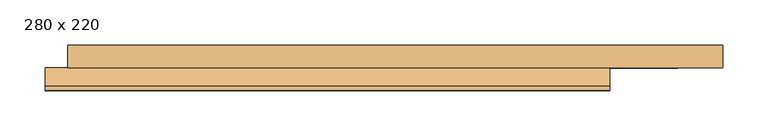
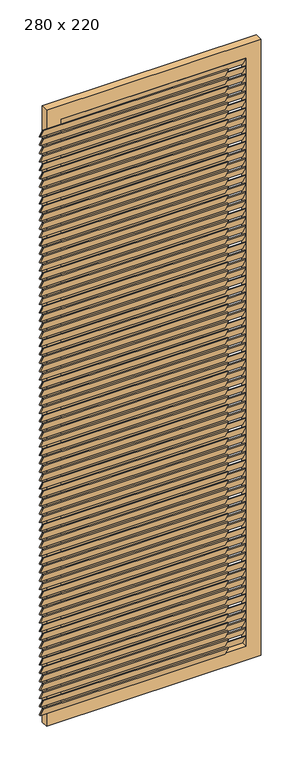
"""IFC4 building model written with IfcOpenShell, lengths in millimetres: door geometry, PORTA DE VIDRO COM ESQUADRIA DE CORRER - 4 FOLHAS + VENEZIANA DE CORRER - 4 FOLHAS : 280 x 220."""

from ifc_helpers import new_model, si_unit, frame, origin, place, context, project, spatial, polyline, outline, extrude, source, transform, mapped, element, save


def door_280_x_220_15cdb0a3(model_context):
    return source(origin(), model_context, "Body", "SweptSolid", [
        extrude(outline(polyline([(27.9682931, 2085.0724638), (7.9682931, 2120.0724638), (12.9682931, 2120.0724638), (32.9682931, 2085.0724638), (27.9682931, 2085.0724638)])), frame((983.9134884, 0.0, 0.0), z_axis=(1.0, 0.0, 0.0), x_axis=(0.0, 1.0, 0.0)), (0.0, 0.0, 1.0), 625.0),
        extrude(outline(polyline([(27.9682931, 2055.1449275), (7.9682931, 2090.1449275), (12.9682931, 2090.1449275), (32.9682931, 2055.1449275), (27.9682931, 2055.1449275)])), frame((983.9134884, 0.0, 0.0), z_axis=(1.0, 0.0, 0.0), x_axis=(0.0, 1.0, 0.0)), (0.0, 0.0, 1.0), 625.0),
        extrude(outline(polyline([(27.9682931, 2025.2173913), (7.9682931, 2060.2173913), (12.9682931, 2060.2173913), (32.9682931, 2025.2173913), (27.9682931, 2025.2173913)])), frame((983.9134884, 0.0, 0.0), z_axis=(1.0, 0.0, 0.0), x_axis=(0.0, 1.0, 0.0)), (0.0, 0.0, 1.0), 625.0),
        extrude(outline(polyline([(27.9682931, 1995.2898551), (7.9682931, 2030.2898551), (12.9682931, 2030.2898551), (32.9682931, 1995.2898551), (27.9682931, 1995.2898551)])), frame((983.9134884, 0.0, 0.0), z_axis=(1.0, 0.0, 0.0), x_axis=(0.0, 1.0, 0.0)), (0.0, 0.0, 1.0), 625.0),
        extrude(outline(polyline([(27.9682931, 1965.3623188), (7.9682931, 2000.3623188), (12.9682931, 2000.3623188), (32.9682931, 1965.3623188), (27.9682931, 1965.3623188)])), frame((983.9134884, 0.0, 0.0), z_axis=(1.0, 0.0, 0.0), x_axis=(0.0, 1.0, 0.0)), (0.0, 0.0, 1.0), 625.0),
        extrude(outline(polyline([(27.9682931, 1935.4347826), (7.9682931, 1970.4347826), (12.9682931, 1970.4347826), (32.9682931, 1935.4347826), (27.9682931, 1935.4347826)])), frame((983.9134884, 0.0, 0.0), z_axis=(1.0, 0.0, 0.0), x_axis=(0.0, 1.0, 0.0)), (0.0, 0.0, 1.0), 625.0),
        extrude(outline(polyline([(27.9682931, 1905.5072464), (7.9682931, 1940.5072464), (12.9682931, 1940.5072464), (32.9682931, 1905.5072464), (27.9682931, 1905.5072464)])), frame((983.9134884, 0.0, 0.0), z_axis=(1.0, 0.0, 0.0), x_axis=(0.0, 1.0, 0.0)), (0.0, 0.0, 1.0), 625.0),
        extrude(outline(polyline([(27.9682931, 1875.5797101), (7.9682931, 1910.5797101), (12.9682931, 1910.5797101), (32.9682931, 1875.5797101), (27.9682931, 1875.5797101)])), frame((983.9134884, 0.0, 0.0), z_axis=(1.0, 0.0, 0.0), x_axis=(0.0, 1.0, 0.0)), (0.0, 0.0, 1.0), 625.0),
        extrude(outline(polyline([(27.9682931, 1845.6521739), (7.9682931, 1880.6521739), (12.9682931, 1880.6521739), (32.9682931, 1845.6521739), (27.9682931, 1845.6521739)])), frame((983.9134884, 0.0, 0.0), z_axis=(1.0, 0.0, 0.0), x_axis=(0.0, 1.0, 0.0)), (0.0, 0.0, 1.0), 625.0),
        extrude(outline(polyline([(27.9682931, 1815.7246377), (7.9682931, 1850.7246377), (12.9682931, 1850.7246377), (32.9682931, 1815.7246377), (27.9682931, 1815.7246377)])), frame((983.9134884, 0.0, 0.0), z_axis=(1.0, 0.0, 0.0), x_axis=(0.0, 1.0, 0.0)), (0.0, 0.0, 1.0), 625.0),
        extrude(outline(polyline([(27.9682931, 1785.7971014), (7.9682931, 1820.7971014), (12.9682931, 1820.7971014), (32.9682931, 1785.7971014), (27.9682931, 1785.7971014)])), frame((983.9134884, 0.0, 0.0), z_axis=(1.0, 0.0, 0.0), x_axis=(0.0, 1.0, 0.0)), (0.0, 0.0, 1.0), 625.0),
        extrude(outline(polyline([(27.9682931, 1755.8695652), (7.9682931, 1790.8695652), (12.9682931, 1790.8695652), (32.9682931, 1755.8695652), (27.9682931, 1755.8695652)])), frame((983.9134884, 0.0, 0.0), z_axis=(1.0, 0.0, 0.0), x_axis=(0.0, 1.0, 0.0)), (0.0, 0.0, 1.0), 625.0),
        extrude(outline(polyline([(27.9682931, 1725.942029), (7.9682931, 1760.942029), (12.9682931, 1760.942029), (32.9682931, 1725.942029), (27.9682931, 1725.942029)])), frame((983.9134884, 0.0, 0.0), z_axis=(1.0, 0.0, 0.0), x_axis=(0.0, 1.0, 0.0)), (0.0, 0.0, 1.0), 625.0),
        extrude(outline(polyline([(27.9682931, 1696.0144928), (7.9682931, 1731.0144928), (12.9682931, 1731.0144928), (32.9682931, 1696.0144928), (27.9682931, 1696.0144928)])), frame((983.9134884, 0.0, 0.0), z_axis=(1.0, 0.0, 0.0), x_axis=(0.0, 1.0, 0.0)), (0.0, 0.0, 1.0), 625.0),
        extrude(outline(polyline([(27.9682931, 1666.0869565), (7.9682931, 1701.0869565), (12.9682931, 1701.0869565), (32.9682931, 1666.0869565), (27.9682931, 1666.0869565)])), frame((983.9134884, 0.0, 0.0), z_axis=(1.0, 0.0, 0.0), x_axis=(0.0, 1.0, 0.0)), (0.0, 0.0, 1.0), 625.0),
        extrude(outline(polyline([(27.9682931, 1636.1594203), (7.9682931, 1671.1594203), (12.9682931, 1671.1594203), (32.9682931, 1636.1594203), (27.9682931, 1636.1594203)])), frame((983.9134884, 0.0, 0.0), z_axis=(1.0, 0.0, 0.0), x_axis=(0.0, 1.0, 0.0)), (0.0, 0.0, 1.0), 625.0),
        extrude(outline(polyline([(27.9682931, 1606.2318841), (7.9682931, 1641.2318841), (12.9682931, 1641.2318841), (32.9682931, 1606.2318841), (27.9682931, 1606.2318841)])), frame((983.9134884, 0.0, 0.0), z_axis=(1.0, 0.0, 0.0), x_axis=(0.0, 1.0, 0.0)), (0.0, 0.0, 1.0), 625.0),
        extrude(outline(polyline([(27.9682931, 1576.3043478), (7.9682931, 1611.3043478), (12.9682931, 1611.3043478), (32.9682931, 1576.3043478), (27.9682931, 1576.3043478)])), frame((983.9134884, 0.0, 0.0), z_axis=(1.0, 0.0, 0.0), x_axis=(0.0, 1.0, 0.0)), (0.0, 0.0, 1.0), 625.0),
        extrude(outline(polyline([(27.9682931, 1546.3768116), (7.9682931, 1581.3768116), (12.9682931, 1581.3768116), (32.9682931, 1546.3768116), (27.9682931, 1546.3768116)])), frame((983.9134884, 0.0, 0.0), z_axis=(1.0, 0.0, 0.0), x_axis=(0.0, 1.0, 0.0)), (0.0, 0.0, 1.0), 625.0),
        extrude(outline(polyline([(27.9682931, 1516.4492754), (7.9682931, 1551.4492754), (12.9682931, 1551.4492754), (32.9682931, 1516.4492754), (27.9682931, 1516.4492754)])), frame((983.9134884, 0.0, 0.0), z_axis=(1.0, 0.0, 0.0), x_axis=(0.0, 1.0, 0.0)), (0.0, 0.0, 1.0), 625.0),
        extrude(outline(polyline([(27.9682931, 1486.5217391), (7.9682931, 1521.5217391), (12.9682931, 1521.5217391), (32.9682931, 1486.5217391), (27.9682931, 1486.5217391)])), frame((983.9134884, 0.0, 0.0), z_axis=(1.0, 0.0, 0.0), x_axis=(0.0, 1.0, 0.0)), (0.0, 0.0, 1.0), 625.0),
        extrude(outline(polyline([(27.9682931, 1456.5942029), (7.9682931, 1491.5942029), (12.9682931, 1491.5942029), (32.9682931, 1456.5942029), (27.9682931, 1456.5942029)])), frame((983.9134884, 0.0, 0.0), z_axis=(1.0, 0.0, 0.0), x_axis=(0.0, 1.0, 0.0)), (0.0, 0.0, 1.0), 625.0),
        extrude(outline(polyline([(27.9682931, 1426.6666667), (7.9682931, 1461.6666667), (12.9682931, 1461.6666667), (32.9682931, 1426.6666667), (27.9682931, 1426.6666667)])), frame((983.9134884, 0.0, 0.0), z_axis=(1.0, 0.0, 0.0), x_axis=(0.0, 1.0, 0.0)), (0.0, 0.0, 1.0), 625.0),
        extrude(outline(polyline([(27.9682931, 1396.7391304), (7.9682931, 1431.7391304), (12.9682931, 1431.7391304), (32.9682931, 1396.7391304), (27.9682931, 1396.7391304)])), frame((983.9134884, 0.0, 0.0), z_axis=(1.0, 0.0, 0.0), x_axis=(0.0, 1.0, 0.0)), (0.0, 0.0, 1.0), 625.0),
        extrude(outline(polyline([(27.9682931, 1366.8115942), (7.9682931, 1401.8115942), (12.9682931, 1401.8115942), (32.9682931, 1366.8115942), (27.9682931, 1366.8115942)])), frame((983.9134884, 0.0, 0.0), z_axis=(1.0, 0.0, 0.0), x_axis=(0.0, 1.0, 0.0)), (0.0, 0.0, 1.0), 625.0),
        extrude(outline(polyline([(27.9682931, 1336.884058), (7.9682931, 1371.884058), (12.9682931, 1371.884058), (32.9682931, 1336.884058), (27.9682931, 1336.884058)])), frame((983.9134884, 0.0, 0.0), z_axis=(1.0, 0.0, 0.0), x_axis=(0.0, 1.0, 0.0)), (0.0, 0.0, 1.0), 625.0),
        extrude(outline(polyline([(27.9682931, 1306.9565217), (7.9682931, 1341.9565217), (12.9682931, 1341.9565217), (32.9682931, 1306.9565217), (27.9682931, 1306.9565217)])), frame((983.9134884, 0.0, 0.0), z_axis=(1.0, 0.0, 0.0), x_axis=(0.0, 1.0, 0.0)), (0.0, 0.0, 1.0), 625.0),
        extrude(outline(polyline([(27.9682931, 1277.0289855), (7.9682931, 1312.0289855), (12.9682931, 1312.0289855), (32.9682931, 1277.0289855), (27.9682931, 1277.0289855)])), frame((983.9134884, 0.0, 0.0), z_axis=(1.0, 0.0, 0.0), x_axis=(0.0, 1.0, 0.0)), (0.0, 0.0, 1.0), 625.0),
        extrude(outline(polyline([(27.9682931, 1247.1014493), (7.9682931, 1282.1014493), (12.9682931, 1282.1014493), (32.9682931, 1247.1014493), (27.9682931, 1247.1014493)])), frame((983.9134884, 0.0, 0.0), z_axis=(1.0, 0.0, 0.0), x_axis=(0.0, 1.0, 0.0)), (0.0, 0.0, 1.0), 625.0),
        extrude(outline(polyline([(27.9682931, 1217.173913), (7.9682931, 1252.173913), (12.9682931, 1252.173913), (32.9682931, 1217.173913), (27.9682931, 1217.173913)])), frame((983.9134884, 0.0, 0.0), z_axis=(1.0, 0.0, 0.0), x_axis=(0.0, 1.0, 0.0)), (0.0, 0.0, 1.0), 625.0),
        extrude(outline(polyline([(27.9682931, 1187.2463768), (7.9682931, 1222.2463768), (12.9682931, 1222.2463768), (32.9682931, 1187.2463768), (27.9682931, 1187.2463768)])), frame((983.9134884, 0.0, 0.0), z_axis=(1.0, 0.0, 0.0), x_axis=(0.0, 1.0, 0.0)), (0.0, 0.0, 1.0), 625.0),
        extrude(outline(polyline([(27.9682931, 1157.3188406), (7.9682931, 1192.3188406), (12.9682931, 1192.3188406), (32.9682931, 1157.3188406), (27.9682931, 1157.3188406)])), frame((983.9134884, 0.0, 0.0), z_axis=(1.0, 0.0, 0.0), x_axis=(0.0, 1.0, 0.0)), (0.0, 0.0, 1.0), 625.0),
        extrude(outline(polyline([(27.9682931, 1127.3913043), (7.9682931, 1162.3913043), (12.9682931, 1162.3913043), (32.9682931, 1127.3913043), (27.9682931, 1127.3913043)])), frame((983.9134884, 0.0, 0.0), z_axis=(1.0, 0.0, 0.0), x_axis=(0.0, 1.0, 0.0)), (0.0, 0.0, 1.0), 625.0),
        extrude(outline(polyline([(27.9682931, 1097.4637681), (7.9682931, 1132.4637681), (12.9682931, 1132.4637681), (32.9682931, 1097.4637681), (27.9682931, 1097.4637681)])), frame((983.9134884, 0.0, 0.0), z_axis=(1.0, 0.0, 0.0), x_axis=(0.0, 1.0, 0.0)), (0.0, 0.0, 1.0), 625.0),
        extrude(outline(polyline([(27.9682931, 1067.5362319), (7.9682931, 1102.5362319), (12.9682931, 1102.5362319), (32.9682931, 1067.5362319), (27.9682931, 1067.5362319)])), frame((983.9134884, 0.0, 0.0), z_axis=(1.0, 0.0, 0.0), x_axis=(0.0, 1.0, 0.0)), (0.0, 0.0, 1.0), 625.0),
        extrude(outline(polyline([(27.9682931, 1037.6086957), (7.9682931, 1072.6086957), (12.9682931, 1072.6086957), (32.9682931, 1037.6086957), (27.9682931, 1037.6086957)])), frame((983.9134884, 0.0, 0.0), z_axis=(1.0, 0.0, 0.0), x_axis=(0.0, 1.0, 0.0)), (0.0, 0.0, 1.0), 625.0),
        extrude(outline(polyline([(27.9682931, 1007.6811594), (7.9682931, 1042.6811594), (12.9682931, 1042.6811594), (32.9682931, 1007.6811594), (27.9682931, 1007.6811594)])), frame((983.9134884, 0.0, 0.0), z_axis=(1.0, 0.0, 0.0), x_axis=(0.0, 1.0, 0.0)), (0.0, 0.0, 1.0), 625.0),
        extrude(outline(polyline([(27.9682931, 977.7536232), (7.9682931, 1012.7536232), (12.9682931, 1012.7536232), (32.9682931, 977.7536232), (27.9682931, 977.7536232)])), frame((983.9134884, 0.0, 0.0), z_axis=(1.0, 0.0, 0.0), x_axis=(0.0, 1.0, 0.0)), (0.0, 0.0, 1.0), 625.0),
        extrude(outline(polyline([(27.9682931, 947.826087), (7.9682931, 982.826087), (12.9682931, 982.826087), (32.9682931, 947.826087), (27.9682931, 947.826087)])), frame((983.9134884, 0.0, 0.0), z_axis=(1.0, 0.0, 0.0), x_axis=(0.0, 1.0, 0.0)), (0.0, 0.0, 1.0), 625.0),
        extrude(outline(polyline([(27.9682931, 917.8985507), (7.9682931, 952.8985507), (12.9682931, 952.8985507), (32.9682931, 917.8985507), (27.9682931, 917.8985507)])), frame((983.9134884, 0.0, 0.0), z_axis=(1.0, 0.0, 0.0), x_axis=(0.0, 1.0, 0.0)), (0.0, 0.0, 1.0), 625.0),
        extrude(outline(polyline([(27.9682931, 887.9710145), (7.9682931, 922.9710145), (12.9682931, 922.9710145), (32.9682931, 887.9710145), (27.9682931, 887.9710145)])), frame((983.9134884, 0.0, 0.0), z_axis=(1.0, 0.0, 0.0), x_axis=(0.0, 1.0, 0.0)), (0.0, 0.0, 1.0), 625.0),
        extrude(outline(polyline([(27.9682931, 858.0434783), (7.9682931, 893.0434783), (12.9682931, 893.0434783), (32.9682931, 858.0434783), (27.9682931, 858.0434783)])), frame((983.9134884, 0.0, 0.0), z_axis=(1.0, 0.0, 0.0), x_axis=(0.0, 1.0, 0.0)), (0.0, 0.0, 1.0), 625.0),
        extrude(outline(polyline([(27.9682931, 828.115942), (7.9682931, 863.115942), (12.9682931, 863.115942), (32.9682931, 828.115942), (27.9682931, 828.115942)])), frame((983.9134884, 0.0, 0.0), z_axis=(1.0, 0.0, 0.0), x_axis=(0.0, 1.0, 0.0)), (0.0, 0.0, 1.0), 625.0),
        extrude(outline(polyline([(27.9682931, 798.1884058), (7.9682931, 833.1884058), (12.9682931, 833.1884058), (32.9682931, 798.1884058), (27.9682931, 798.1884058)])), frame((983.9134884, 0.0, 0.0), z_axis=(1.0, 0.0, 0.0), x_axis=(0.0, 1.0, 0.0)), (0.0, 0.0, 1.0), 625.0),
        extrude(outline(polyline([(27.9682931, 768.2608696), (7.9682931, 803.2608696), (12.9682931, 803.2608696), (32.9682931, 768.2608696), (27.9682931, 768.2608696)])), frame((983.9134884, 0.0, 0.0), z_axis=(1.0, 0.0, 0.0), x_axis=(0.0, 1.0, 0.0)), (0.0, 0.0, 1.0), 625.0),
        extrude(outline(polyline([(27.9682931, 738.3333333), (7.9682931, 773.3333333), (12.9682931, 773.3333333), (32.9682931, 738.3333333), (27.9682931, 738.3333333)])), frame((983.9134884, 0.0, 0.0), z_axis=(1.0, 0.0, 0.0), x_axis=(0.0, 1.0, 0.0)), (0.0, 0.0, 1.0), 625.0),
        extrude(outline(polyline([(27.9682931, 708.4057971), (7.9682931, 743.4057971), (12.9682931, 743.4057971), (32.9682931, 708.4057971), (27.9682931, 708.4057971)])), frame((983.9134884, 0.0, 0.0), z_axis=(1.0, 0.0, 0.0), x_axis=(0.0, 1.0, 0.0)), (0.0, 0.0, 1.0), 625.0),
        extrude(outline(polyline([(27.9682931, 678.4782609), (7.9682931, 713.4782609), (12.9682931, 713.4782609), (32.9682931, 678.4782609), (27.9682931, 678.4782609)])), frame((983.9134884, 0.0, 0.0), z_axis=(1.0, 0.0, 0.0), x_axis=(0.0, 1.0, 0.0)), (0.0, 0.0, 1.0), 625.0),
        extrude(outline(polyline([(27.9682931, 648.5507246), (7.9682931, 683.5507246), (12.9682931, 683.5507246), (32.9682931, 648.5507246), (27.9682931, 648.5507246)])), frame((983.9134884, 0.0, 0.0), z_axis=(1.0, 0.0, 0.0), x_axis=(0.0, 1.0, 0.0)), (0.0, 0.0, 1.0), 625.0),
        extrude(outline(polyline([(27.9682931, 618.6231884), (7.9682931, 653.6231884), (12.9682931, 653.6231884), (32.9682931, 618.6231884), (27.9682931, 618.6231884)])), frame((983.9134884, 0.0, 0.0), z_axis=(1.0, 0.0, 0.0), x_axis=(0.0, 1.0, 0.0)), (0.0, 0.0, 1.0), 625.0),
        extrude(outline(polyline([(27.9682931, 588.6956522), (7.9682931, 623.6956522), (12.9682931, 623.6956522), (32.9682931, 588.6956522), (27.9682931, 588.6956522)])), frame((983.9134884, 0.0, 0.0), z_axis=(1.0, 0.0, 0.0), x_axis=(0.0, 1.0, 0.0)), (0.0, 0.0, 1.0), 625.0),
        extrude(outline(polyline([(27.9682931, 558.7681159), (7.9682931, 593.7681159), (12.9682931, 593.7681159), (32.9682931, 558.7681159), (27.9682931, 558.7681159)])), frame((983.9134884, 0.0, 0.0), z_axis=(1.0, 0.0, 0.0), x_axis=(0.0, 1.0, 0.0)), (0.0, 0.0, 1.0), 625.0),
        extrude(outline(polyline([(27.9682931, 528.8405797), (7.9682931, 563.8405797), (12.9682931, 563.8405797), (32.9682931, 528.8405797), (27.9682931, 528.8405797)])), frame((983.9134884, 0.0, 0.0), z_axis=(1.0, 0.0, 0.0), x_axis=(0.0, 1.0, 0.0)), (0.0, 0.0, 1.0), 625.0),
        extrude(outline(polyline([(27.9682931, 498.9130435), (7.9682931, 533.9130435), (12.9682931, 533.9130435), (32.9682931, 498.9130435), (27.9682931, 498.9130435)])), frame((983.9134884, 0.0, 0.0), z_axis=(1.0, 0.0, 0.0), x_axis=(0.0, 1.0, 0.0)), (0.0, 0.0, 1.0), 625.0),
        extrude(outline(polyline([(27.9682931, 468.9855072), (7.9682931, 503.9855072), (12.9682931, 503.9855072), (32.9682931, 468.9855072), (27.9682931, 468.9855072)])), frame((983.9134884, 0.0, 0.0), z_axis=(1.0, 0.0, 0.0), x_axis=(0.0, 1.0, 0.0)), (0.0, 0.0, 1.0), 625.0),
        extrude(outline(polyline([(27.9682931, 439.057971), (7.9682931, 474.057971), (12.9682931, 474.057971), (32.9682931, 439.057971), (27.9682931, 439.057971)])), frame((983.9134884, 0.0, 0.0), z_axis=(1.0, 0.0, 0.0), x_axis=(0.0, 1.0, 0.0)), (0.0, 0.0, 1.0), 625.0),
        extrude(outline(polyline([(27.9682931, 409.1304348), (7.9682931, 444.1304348), (12.9682931, 444.1304348), (32.9682931, 409.1304348), (27.9682931, 409.1304348)])), frame((983.9134884, 0.0, 0.0), z_axis=(1.0, 0.0, 0.0), x_axis=(0.0, 1.0, 0.0)), (0.0, 0.0, 1.0), 625.0),
        extrude(outline(polyline([(27.9682931, 379.2028986), (7.9682931, 414.2028986), (12.9682931, 414.2028986), (32.9682931, 379.2028986), (27.9682931, 379.2028986)])), frame((983.9134884, 0.0, 0.0), z_axis=(1.0, 0.0, 0.0), x_axis=(0.0, 1.0, 0.0)), (0.0, 0.0, 1.0), 625.0),
        extrude(outline(polyline([(27.9682931, 349.2753623), (7.9682931, 384.2753623), (12.9682931, 384.2753623), (32.9682931, 349.2753623), (27.9682931, 349.2753623)])), frame((983.9134884, 0.0, 0.0), z_axis=(1.0, 0.0, 0.0), x_axis=(0.0, 1.0, 0.0)), (0.0, 0.0, 1.0), 625.0),
        extrude(outline(polyline([(27.9682931, 319.3478261), (7.9682931, 354.3478261), (12.9682931, 354.3478261), (32.9682931, 319.3478261), (27.9682931, 319.3478261)])), frame((983.9134884, 0.0, 0.0), z_axis=(1.0, 0.0, 0.0), x_axis=(0.0, 1.0, 0.0)), (0.0, 0.0, 1.0), 625.0),
        extrude(outline(polyline([(27.9682931, 289.4202899), (7.9682931, 324.4202899), (12.9682931, 324.4202899), (32.9682931, 289.4202899), (27.9682931, 289.4202899)])), frame((983.9134884, 0.0, 0.0), z_axis=(1.0, 0.0, 0.0), x_axis=(0.0, 1.0, 0.0)), (0.0, 0.0, 1.0), 625.0),
        extrude(outline(polyline([(27.9682931, 259.4927536), (7.9682931, 294.4927536), (12.9682931, 294.4927536), (32.9682931, 259.4927536), (27.9682931, 259.4927536)])), frame((983.9134884, 0.0, 0.0), z_axis=(1.0, 0.0, 0.0), x_axis=(0.0, 1.0, 0.0)), (0.0, 0.0, 1.0), 625.0),
        extrude(outline(polyline([(27.9682931, 229.5652174), (7.9682931, 264.5652174), (12.9682931, 264.5652174), (32.9682931, 229.5652174), (27.9682931, 229.5652174)])), frame((983.9134884, 0.0, 0.0), z_axis=(1.0, 0.0, 0.0), x_axis=(0.0, 1.0, 0.0)), (0.0, 0.0, 1.0), 625.0),
        extrude(outline(polyline([(27.9682931, 199.6376812), (7.9682931, 234.6376812), (12.9682931, 234.6376812), (32.9682931, 199.6376812), (27.9682931, 199.6376812)])), frame((983.9134884, 0.0, 0.0), z_axis=(1.0, 0.0, 0.0), x_axis=(0.0, 1.0, 0.0)), (0.0, 0.0, 1.0), 625.0),
        extrude(outline(polyline([(27.9682931, 169.7101449), (7.9682931, 204.7101449), (12.9682931, 204.7101449), (32.9682931, 169.7101449), (27.9682931, 169.7101449)])), frame((983.9134884, 0.0, 0.0), z_axis=(1.0, 0.0, 0.0), x_axis=(0.0, 1.0, 0.0)), (0.0, 0.0, 1.0), 625.0),
        extrude(outline(polyline([(27.9682931, 139.7826087), (7.9682931, 174.7826087), (12.9682931, 174.7826087), (32.9682931, 139.7826087), (27.9682931, 139.7826087)])), frame((983.9134884, 0.0, 0.0), z_axis=(1.0, 0.0, 0.0), x_axis=(0.0, 1.0, 0.0)), (0.0, 0.0, 1.0), 625.0),
        extrude(outline(polyline([(27.9682931, 109.8550725), (7.9682931, 144.8550725), (12.9682931, 144.8550725), (32.9682931, 109.8550725), (27.9682931, 109.8550725)])), frame((983.9134884, 0.0, 0.0), z_axis=(1.0, 0.0, 0.0), x_axis=(0.0, 1.0, 0.0)), (0.0, 0.0, 1.0), 625.0),
        extrude(outline(polyline([(27.9682931, 79.9275362), (7.9682931, 114.9275362), (12.9682931, 114.9275362), (32.9682931, 79.9275362), (27.9682931, 79.9275362)])), frame((983.9134884, 0.0, 0.0), z_axis=(1.0, 0.0, 0.0), x_axis=(0.0, 1.0, 0.0)), (0.0, 0.0, 1.0), 625.0),
        extrude(outline(polyline([(27.9682931, 2115.0), (7.9682931, 2150.0), (12.9682931, 2150.0), (32.9682931, 2115.0), (27.9682931, 2115.0)])), frame((983.9134884, 0.0, 0.0), z_axis=(1.0, 0.0, 0.0), x_axis=(0.0, 1.0, 0.0)), (0.0, 0.0, 1.0), 625.0),
        extrude(outline(polyline([(27.9682931, 50.0), (7.9682931, 85.0), (12.9682931, 85.0), (32.9682931, 50.0), (27.9682931, 50.0)])), frame((983.9134884, 0.0, 0.0), z_axis=(1.0, 0.0, 0.0), x_axis=(0.0, 1.0, 0.0)), (0.0, 0.0, 1.0), 625.0),
        extrude(outline(polyline([(2200.0, 933.9134884), (0.0, 933.9134884), (0.0, 1658.9134884), (2200.0, 1658.9134884), (2200.0, 933.9134884)]), holes=[polyline([(2150.0, 983.9134884), (2150.0, 1608.9134884), (50.0, 1608.9134884), (50.0, 983.9134884), (2150.0, 983.9134884)])]), frame((0.0, 7.9682931, 0.0), z_axis=(0.0, 1.0, 0.0), x_axis=(0.0, 0.0, 1.0)), (0.0, 0.0, 1.0), 25.0),
        extrude(outline(polyline([(2.9682931, 2085.0724638), (-17.0317069, 2120.0724638), (-12.0317069, 2120.0724638), (7.9682931, 2085.0724638), (2.9682931, 2085.0724638)])), frame((908.9134884, 0.0, 0.0), z_axis=(1.0, 0.0, 0.0), x_axis=(0.0, 1.0, 0.0)), (0.0, 0.0, 1.0), 625.0),
        extrude(outline(polyline([(2.9682931, 2055.1449275), (-17.0317069, 2090.1449275), (-12.0317069, 2090.1449275), (7.9682931, 2055.1449275), (2.9682931, 2055.1449275)])), frame((908.9134884, 0.0, 0.0), z_axis=(1.0, 0.0, 0.0), x_axis=(0.0, 1.0, 0.0)), (0.0, 0.0, 1.0), 625.0),
        extrude(outline(polyline([(2.9682931, 2025.2173913), (-17.0317069, 2060.2173913), (-12.0317069, 2060.2173913), (7.9682931, 2025.2173913), (2.9682931, 2025.2173913)])), frame((908.9134884, 0.0, 0.0), z_axis=(1.0, 0.0, 0.0), x_axis=(0.0, 1.0, 0.0)), (0.0, 0.0, 1.0), 625.0),
        extrude(outline(polyline([(2.9682931, 1995.2898551), (-17.0317069, 2030.2898551), (-12.0317069, 2030.2898551), (7.9682931, 1995.2898551), (2.9682931, 1995.2898551)])), frame((908.9134884, 0.0, 0.0), z_axis=(1.0, 0.0, 0.0), x_axis=(0.0, 1.0, 0.0)), (0.0, 0.0, 1.0), 625.0),
        extrude(outline(polyline([(2.9682931, 1965.3623188), (-17.0317069, 2000.3623188), (-12.0317069, 2000.3623188), (7.9682931, 1965.3623188), (2.9682931, 1965.3623188)])), frame((908.9134884, 0.0, 0.0), z_axis=(1.0, 0.0, 0.0), x_axis=(0.0, 1.0, 0.0)), (0.0, 0.0, 1.0), 625.0),
        extrude(outline(polyline([(2.9682931, 1935.4347826), (-17.0317069, 1970.4347826), (-12.0317069, 1970.4347826), (7.9682931, 1935.4347826), (2.9682931, 1935.4347826)])), frame((908.9134884, 0.0, 0.0), z_axis=(1.0, 0.0, 0.0), x_axis=(0.0, 1.0, 0.0)), (0.0, 0.0, 1.0), 625.0),
        extrude(outline(polyline([(2.9682931, 1905.5072464), (-17.0317069, 1940.5072464), (-12.0317069, 1940.5072464), (7.9682931, 1905.5072464), (2.9682931, 1905.5072464)])), frame((908.9134884, 0.0, 0.0), z_axis=(1.0, 0.0, 0.0), x_axis=(0.0, 1.0, 0.0)), (0.0, 0.0, 1.0), 625.0),
        extrude(outline(polyline([(2.9682931, 1875.5797101), (-17.0317069, 1910.5797101), (-12.0317069, 1910.5797101), (7.9682931, 1875.5797101), (2.9682931, 1875.5797101)])), frame((908.9134884, 0.0, 0.0), z_axis=(1.0, 0.0, 0.0), x_axis=(0.0, 1.0, 0.0)), (0.0, 0.0, 1.0), 625.0),
        extrude(outline(polyline([(2.9682931, 1845.6521739), (-17.0317069, 1880.6521739), (-12.0317069, 1880.6521739), (7.9682931, 1845.6521739), (2.9682931, 1845.6521739)])), frame((908.9134884, 0.0, 0.0), z_axis=(1.0, 0.0, 0.0), x_axis=(0.0, 1.0, 0.0)), (0.0, 0.0, 1.0), 625.0),
        extrude(outline(polyline([(2.9682931, 1815.7246377), (-17.0317069, 1850.7246377), (-12.0317069, 1850.7246377), (7.9682931, 1815.7246377), (2.9682931, 1815.7246377)])), frame((908.9134884, 0.0, 0.0), z_axis=(1.0, 0.0, 0.0), x_axis=(0.0, 1.0, 0.0)), (0.0, 0.0, 1.0), 625.0),
        extrude(outline(polyline([(2.9682931, 1785.7971014), (-17.0317069, 1820.7971014), (-12.0317069, 1820.7971014), (7.9682931, 1785.7971014), (2.9682931, 1785.7971014)])), frame((908.9134884, 0.0, 0.0), z_axis=(1.0, 0.0, 0.0), x_axis=(0.0, 1.0, 0.0)), (0.0, 0.0, 1.0), 625.0),
        extrude(outline(polyline([(2.9682931, 1755.8695652), (-17.0317069, 1790.8695652), (-12.0317069, 1790.8695652), (7.9682931, 1755.8695652), (2.9682931, 1755.8695652)])), frame((908.9134884, 0.0, 0.0), z_axis=(1.0, 0.0, 0.0), x_axis=(0.0, 1.0, 0.0)), (0.0, 0.0, 1.0), 625.0),
        extrude(outline(polyline([(2.9682931, 1725.942029), (-17.0317069, 1760.942029), (-12.0317069, 1760.942029), (7.9682931, 1725.942029), (2.9682931, 1725.942029)])), frame((908.9134884, 0.0, 0.0), z_axis=(1.0, 0.0, 0.0), x_axis=(0.0, 1.0, 0.0)), (0.0, 0.0, 1.0), 625.0),
        extrude(outline(polyline([(2.9682931, 1696.0144928), (-17.0317069, 1731.0144928), (-12.0317069, 1731.0144928), (7.9682931, 1696.0144928), (2.9682931, 1696.0144928)])), frame((908.9134884, 0.0, 0.0), z_axis=(1.0, 0.0, 0.0), x_axis=(0.0, 1.0, 0.0)), (0.0, 0.0, 1.0), 625.0),
        extrude(outline(polyline([(2.9682931, 1666.0869565), (-17.0317069, 1701.0869565), (-12.0317069, 1701.0869565), (7.9682931, 1666.0869565), (2.9682931, 1666.0869565)])), frame((908.9134884, 0.0, 0.0), z_axis=(1.0, 0.0, 0.0), x_axis=(0.0, 1.0, 0.0)), (0.0, 0.0, 1.0), 625.0),
        extrude(outline(polyline([(2.9682931, 1636.1594203), (-17.0317069, 1671.1594203), (-12.0317069, 1671.1594203), (7.9682931, 1636.1594203), (2.9682931, 1636.1594203)])), frame((908.9134884, 0.0, 0.0), z_axis=(1.0, 0.0, 0.0), x_axis=(0.0, 1.0, 0.0)), (0.0, 0.0, 1.0), 625.0),
        extrude(outline(polyline([(2.9682931, 1606.2318841), (-17.0317069, 1641.2318841), (-12.0317069, 1641.2318841), (7.9682931, 1606.2318841), (2.9682931, 1606.2318841)])), frame((908.9134884, 0.0, 0.0), z_axis=(1.0, 0.0, 0.0), x_axis=(0.0, 1.0, 0.0)), (0.0, 0.0, 1.0), 625.0),
        extrude(outline(polyline([(2.9682931, 1576.3043478), (-17.0317069, 1611.3043478), (-12.0317069, 1611.3043478), (7.9682931, 1576.3043478), (2.9682931, 1576.3043478)])), frame((908.9134884, 0.0, 0.0), z_axis=(1.0, 0.0, 0.0), x_axis=(0.0, 1.0, 0.0)), (0.0, 0.0, 1.0), 625.0),
        extrude(outline(polyline([(2.9682931, 1546.3768116), (-17.0317069, 1581.3768116), (-12.0317069, 1581.3768116), (7.9682931, 1546.3768116), (2.9682931, 1546.3768116)])), frame((908.9134884, 0.0, 0.0), z_axis=(1.0, 0.0, 0.0), x_axis=(0.0, 1.0, 0.0)), (0.0, 0.0, 1.0), 625.0),
        extrude(outline(polyline([(2.9682931, 1516.4492754), (-17.0317069, 1551.4492754), (-12.0317069, 1551.4492754), (7.9682931, 1516.4492754), (2.9682931, 1516.4492754)])), frame((908.9134884, 0.0, 0.0), z_axis=(1.0, 0.0, 0.0), x_axis=(0.0, 1.0, 0.0)), (0.0, 0.0, 1.0), 625.0),
        extrude(outline(polyline([(2.9682931, 1486.5217391), (-17.0317069, 1521.5217391), (-12.0317069, 1521.5217391), (7.9682931, 1486.5217391), (2.9682931, 1486.5217391)])), frame((908.9134884, 0.0, 0.0), z_axis=(1.0, 0.0, 0.0), x_axis=(0.0, 1.0, 0.0)), (0.0, 0.0, 1.0), 625.0),
        extrude(outline(polyline([(2.9682931, 1456.5942029), (-17.0317069, 1491.5942029), (-12.0317069, 1491.5942029), (7.9682931, 1456.5942029), (2.9682931, 1456.5942029)])), frame((908.9134884, 0.0, 0.0), z_axis=(1.0, 0.0, 0.0), x_axis=(0.0, 1.0, 0.0)), (0.0, 0.0, 1.0), 625.0),
        extrude(outline(polyline([(2.9682931, 1426.6666667), (-17.0317069, 1461.6666667), (-12.0317069, 1461.6666667), (7.9682931, 1426.6666667), (2.9682931, 1426.6666667)])), frame((908.9134884, 0.0, 0.0), z_axis=(1.0, 0.0, 0.0), x_axis=(0.0, 1.0, 0.0)), (0.0, 0.0, 1.0), 625.0),
        extrude(outline(polyline([(2.9682931, 1396.7391304), (-17.0317069, 1431.7391304), (-12.0317069, 1431.7391304), (7.9682931, 1396.7391304), (2.9682931, 1396.7391304)])), frame((908.9134884, 0.0, 0.0), z_axis=(1.0, 0.0, 0.0), x_axis=(0.0, 1.0, 0.0)), (0.0, 0.0, 1.0), 625.0),
        extrude(outline(polyline([(2.9682931, 1366.8115942), (-17.0317069, 1401.8115942), (-12.0317069, 1401.8115942), (7.9682931, 1366.8115942), (2.9682931, 1366.8115942)])), frame((908.9134884, 0.0, 0.0), z_axis=(1.0, 0.0, 0.0), x_axis=(0.0, 1.0, 0.0)), (0.0, 0.0, 1.0), 625.0),
        extrude(outline(polyline([(2.9682931, 1336.884058), (-17.0317069, 1371.884058), (-12.0317069, 1371.884058), (7.9682931, 1336.884058), (2.9682931, 1336.884058)])), frame((908.9134884, 0.0, 0.0), z_axis=(1.0, 0.0, 0.0), x_axis=(0.0, 1.0, 0.0)), (0.0, 0.0, 1.0), 625.0),
        extrude(outline(polyline([(2.9682931, 1306.9565217), (-17.0317069, 1341.9565217), (-12.0317069, 1341.9565217), (7.9682931, 1306.9565217), (2.9682931, 1306.9565217)])), frame((908.9134884, 0.0, 0.0), z_axis=(1.0, 0.0, 0.0), x_axis=(0.0, 1.0, 0.0)), (0.0, 0.0, 1.0), 625.0),
        extrude(outline(polyline([(2.9682931, 1277.0289855), (-17.0317069, 1312.0289855), (-12.0317069, 1312.0289855), (7.9682931, 1277.0289855), (2.9682931, 1277.0289855)])), frame((908.9134884, 0.0, 0.0), z_axis=(1.0, 0.0, 0.0), x_axis=(0.0, 1.0, 0.0)), (0.0, 0.0, 1.0), 625.0),
        extrude(outline(polyline([(2.9682931, 1247.1014493), (-17.0317069, 1282.1014493), (-12.0317069, 1282.1014493), (7.9682931, 1247.1014493), (2.9682931, 1247.1014493)])), frame((908.9134884, 0.0, 0.0), z_axis=(1.0, 0.0, 0.0), x_axis=(0.0, 1.0, 0.0)), (0.0, 0.0, 1.0), 625.0),
        extrude(outline(polyline([(2.9682931, 1217.173913), (-17.0317069, 1252.173913), (-12.0317069, 1252.173913), (7.9682931, 1217.173913), (2.9682931, 1217.173913)])), frame((908.9134884, 0.0, 0.0), z_axis=(1.0, 0.0, 0.0), x_axis=(0.0, 1.0, 0.0)), (0.0, 0.0, 1.0), 625.0),
        extrude(outline(polyline([(2.9682931, 1187.2463768), (-17.0317069, 1222.2463768), (-12.0317069, 1222.2463768), (7.9682931, 1187.2463768), (2.9682931, 1187.2463768)])), frame((908.9134884, 0.0, 0.0), z_axis=(1.0, 0.0, 0.0), x_axis=(0.0, 1.0, 0.0)), (0.0, 0.0, 1.0), 625.0),
        extrude(outline(polyline([(2.9682931, 1157.3188406), (-17.0317069, 1192.3188406), (-12.0317069, 1192.3188406), (7.9682931, 1157.3188406), (2.9682931, 1157.3188406)])), frame((908.9134884, 0.0, 0.0), z_axis=(1.0, 0.0, 0.0), x_axis=(0.0, 1.0, 0.0)), (0.0, 0.0, 1.0), 625.0),
        extrude(outline(polyline([(2.9682931, 1127.3913043), (-17.0317069, 1162.3913043), (-12.0317069, 1162.3913043), (7.9682931, 1127.3913043), (2.9682931, 1127.3913043)])), frame((908.9134884, 0.0, 0.0), z_axis=(1.0, 0.0, 0.0), x_axis=(0.0, 1.0, 0.0)), (0.0, 0.0, 1.0), 625.0),
        extrude(outline(polyline([(2.9682931, 1097.4637681), (-17.0317069, 1132.4637681), (-12.0317069, 1132.4637681), (7.9682931, 1097.4637681), (2.9682931, 1097.4637681)])), frame((908.9134884, 0.0, 0.0), z_axis=(1.0, 0.0, 0.0), x_axis=(0.0, 1.0, 0.0)), (0.0, 0.0, 1.0), 625.0),
        extrude(outline(polyline([(2.9682931, 1067.5362319), (-17.0317069, 1102.5362319), (-12.0317069, 1102.5362319), (7.9682931, 1067.5362319), (2.9682931, 1067.5362319)])), frame((908.9134884, 0.0, 0.0), z_axis=(1.0, 0.0, 0.0), x_axis=(0.0, 1.0, 0.0)), (0.0, 0.0, 1.0), 625.0),
        extrude(outline(polyline([(2.9682931, 1037.6086957), (-17.0317069, 1072.6086957), (-12.0317069, 1072.6086957), (7.9682931, 1037.6086957), (2.9682931, 1037.6086957)])), frame((908.9134884, 0.0, 0.0), z_axis=(1.0, 0.0, 0.0), x_axis=(0.0, 1.0, 0.0)), (0.0, 0.0, 1.0), 625.0),
        extrude(outline(polyline([(2.9682931, 1007.6811594), (-17.0317069, 1042.6811594), (-12.0317069, 1042.6811594), (7.9682931, 1007.6811594), (2.9682931, 1007.6811594)])), frame((908.9134884, 0.0, 0.0), z_axis=(1.0, 0.0, 0.0), x_axis=(0.0, 1.0, 0.0)), (0.0, 0.0, 1.0), 625.0),
        extrude(outline(polyline([(2.9682931, 977.7536232), (-17.0317069, 1012.7536232), (-12.0317069, 1012.7536232), (7.9682931, 977.7536232), (2.9682931, 977.7536232)])), frame((908.9134884, 0.0, 0.0), z_axis=(1.0, 0.0, 0.0), x_axis=(0.0, 1.0, 0.0)), (0.0, 0.0, 1.0), 625.0),
        extrude(outline(polyline([(2.9682931, 947.826087), (-17.0317069, 982.826087), (-12.0317069, 982.826087), (7.9682931, 947.826087), (2.9682931, 947.826087)])), frame((908.9134884, 0.0, 0.0), z_axis=(1.0, 0.0, 0.0), x_axis=(0.0, 1.0, 0.0)), (0.0, 0.0, 1.0), 625.0),
        extrude(outline(polyline([(2.9682931, 917.8985507), (-17.0317069, 952.8985507), (-12.0317069, 952.8985507), (7.9682931, 917.8985507), (2.9682931, 917.8985507)])), frame((908.9134884, 0.0, 0.0), z_axis=(1.0, 0.0, 0.0), x_axis=(0.0, 1.0, 0.0)), (0.0, 0.0, 1.0), 625.0),
        extrude(outline(polyline([(2.9682931, 887.9710145), (-17.0317069, 922.9710145), (-12.0317069, 922.9710145), (7.9682931, 887.9710145), (2.9682931, 887.9710145)])), frame((908.9134884, 0.0, 0.0), z_axis=(1.0, 0.0, 0.0), x_axis=(0.0, 1.0, 0.0)), (0.0, 0.0, 1.0), 625.0),
        extrude(outline(polyline([(2.9682931, 858.0434783), (-17.0317069, 893.0434783), (-12.0317069, 893.0434783), (7.9682931, 858.0434783), (2.9682931, 858.0434783)])), frame((908.9134884, 0.0, 0.0), z_axis=(1.0, 0.0, 0.0), x_axis=(0.0, 1.0, 0.0)), (0.0, 0.0, 1.0), 625.0),
        extrude(outline(polyline([(2.9682931, 828.115942), (-17.0317069, 863.115942), (-12.0317069, 863.115942), (7.9682931, 828.115942), (2.9682931, 828.115942)])), frame((908.9134884, 0.0, 0.0), z_axis=(1.0, 0.0, 0.0), x_axis=(0.0, 1.0, 0.0)), (0.0, 0.0, 1.0), 625.0),
        extrude(outline(polyline([(2.9682931, 798.1884058), (-17.0317069, 833.1884058), (-12.0317069, 833.1884058), (7.9682931, 798.1884058), (2.9682931, 798.1884058)])), frame((908.9134884, 0.0, 0.0), z_axis=(1.0, 0.0, 0.0), x_axis=(0.0, 1.0, 0.0)), (0.0, 0.0, 1.0), 625.0),
        extrude(outline(polyline([(2.9682931, 768.2608696), (-17.0317069, 803.2608696), (-12.0317069, 803.2608696), (7.9682931, 768.2608696), (2.9682931, 768.2608696)])), frame((908.9134884, 0.0, 0.0), z_axis=(1.0, 0.0, 0.0), x_axis=(0.0, 1.0, 0.0)), (0.0, 0.0, 1.0), 625.0),
        extrude(outline(polyline([(2.9682931, 738.3333333), (-17.0317069, 773.3333333), (-12.0317069, 773.3333333), (7.9682931, 738.3333333), (2.9682931, 738.3333333)])), frame((908.9134884, 0.0, 0.0), z_axis=(1.0, 0.0, 0.0), x_axis=(0.0, 1.0, 0.0)), (0.0, 0.0, 1.0), 625.0),
        extrude(outline(polyline([(2.9682931, 708.4057971), (-17.0317069, 743.4057971), (-12.0317069, 743.4057971), (7.9682931, 708.4057971), (2.9682931, 708.4057971)])), frame((908.9134884, 0.0, 0.0), z_axis=(1.0, 0.0, 0.0), x_axis=(0.0, 1.0, 0.0)), (0.0, 0.0, 1.0), 625.0),
        extrude(outline(polyline([(2.9682931, 678.4782609), (-17.0317069, 713.4782609), (-12.0317069, 713.4782609), (7.9682931, 678.4782609), (2.9682931, 678.4782609)])), frame((908.9134884, 0.0, 0.0), z_axis=(1.0, 0.0, 0.0), x_axis=(0.0, 1.0, 0.0)), (0.0, 0.0, 1.0), 625.0),
        extrude(outline(polyline([(2.9682931, 648.5507246), (-17.0317069, 683.5507246), (-12.0317069, 683.5507246), (7.9682931, 648.5507246), (2.9682931, 648.5507246)])), frame((908.9134884, 0.0, 0.0), z_axis=(1.0, 0.0, 0.0), x_axis=(0.0, 1.0, 0.0)), (0.0, 0.0, 1.0), 625.0),
        extrude(outline(polyline([(2.9682931, 618.6231884), (-17.0317069, 653.6231884), (-12.0317069, 653.6231884), (7.9682931, 618.6231884), (2.9682931, 618.6231884)])), frame((908.9134884, 0.0, 0.0), z_axis=(1.0, 0.0, 0.0), x_axis=(0.0, 1.0, 0.0)), (0.0, 0.0, 1.0), 625.0),
        extrude(outline(polyline([(2.9682931, 588.6956522), (-17.0317069, 623.6956522), (-12.0317069, 623.6956522), (7.9682931, 588.6956522), (2.9682931, 588.6956522)])), frame((908.9134884, 0.0, 0.0), z_axis=(1.0, 0.0, 0.0), x_axis=(0.0, 1.0, 0.0)), (0.0, 0.0, 1.0), 625.0),
        extrude(outline(polyline([(2.9682931, 558.7681159), (-17.0317069, 593.7681159), (-12.0317069, 593.7681159), (7.9682931, 558.7681159), (2.9682931, 558.7681159)])), frame((908.9134884, 0.0, 0.0), z_axis=(1.0, 0.0, 0.0), x_axis=(0.0, 1.0, 0.0)), (0.0, 0.0, 1.0), 625.0),
        extrude(outline(polyline([(2.9682931, 528.8405797), (-17.0317069, 563.8405797), (-12.0317069, 563.8405797), (7.9682931, 528.8405797), (2.9682931, 528.8405797)])), frame((908.9134884, 0.0, 0.0), z_axis=(1.0, 0.0, 0.0), x_axis=(0.0, 1.0, 0.0)), (0.0, 0.0, 1.0), 625.0),
        extrude(outline(polyline([(2.9682931, 498.9130435), (-17.0317069, 533.9130435), (-12.0317069, 533.9130435), (7.9682931, 498.9130435), (2.9682931, 498.9130435)])), frame((908.9134884, 0.0, 0.0), z_axis=(1.0, 0.0, 0.0), x_axis=(0.0, 1.0, 0.0)), (0.0, 0.0, 1.0), 625.0),
        extrude(outline(polyline([(2.9682931, 468.9855072), (-17.0317069, 503.9855072), (-12.0317069, 503.9855072), (7.9682931, 468.9855072), (2.9682931, 468.9855072)])), frame((908.9134884, 0.0, 0.0), z_axis=(1.0, 0.0, 0.0), x_axis=(0.0, 1.0, 0.0)), (0.0, 0.0, 1.0), 625.0),
        extrude(outline(polyline([(2.9682931, 439.057971), (-17.0317069, 474.057971), (-12.0317069, 474.057971), (7.9682931, 439.057971), (2.9682931, 439.057971)])), frame((908.9134884, 0.0, 0.0), z_axis=(1.0, 0.0, 0.0), x_axis=(0.0, 1.0, 0.0)), (0.0, 0.0, 1.0), 625.0),
        extrude(outline(polyline([(2.9682931, 409.1304348), (-17.0317069, 444.1304348), (-12.0317069, 444.1304348), (7.9682931, 409.1304348), (2.9682931, 409.1304348)])), frame((908.9134884, 0.0, 0.0), z_axis=(1.0, 0.0, 0.0), x_axis=(0.0, 1.0, 0.0)), (0.0, 0.0, 1.0), 625.0),
        extrude(outline(polyline([(2.9682931, 379.2028986), (-17.0317069, 414.2028986), (-12.0317069, 414.2028986), (7.9682931, 379.2028986), (2.9682931, 379.2028986)])), frame((908.9134884, 0.0, 0.0), z_axis=(1.0, 0.0, 0.0), x_axis=(0.0, 1.0, 0.0)), (0.0, 0.0, 1.0), 625.0),
        extrude(outline(polyline([(2.9682931, 349.2753623), (-17.0317069, 384.2753623), (-12.0317069, 384.2753623), (7.9682931, 349.2753623), (2.9682931, 349.2753623)])), frame((908.9134884, 0.0, 0.0), z_axis=(1.0, 0.0, 0.0), x_axis=(0.0, 1.0, 0.0)), (0.0, 0.0, 1.0), 625.0),
        extrude(outline(polyline([(2.9682931, 319.3478261), (-17.0317069, 354.3478261), (-12.0317069, 354.3478261), (7.9682931, 319.3478261), (2.9682931, 319.3478261)])), frame((908.9134884, 0.0, 0.0), z_axis=(1.0, 0.0, 0.0), x_axis=(0.0, 1.0, 0.0)), (0.0, 0.0, 1.0), 625.0),
        extrude(outline(polyline([(2.9682931, 289.4202899), (-17.0317069, 324.4202899), (-12.0317069, 324.4202899), (7.9682931, 289.4202899), (2.9682931, 289.4202899)])), frame((908.9134884, 0.0, 0.0), z_axis=(1.0, 0.0, 0.0), x_axis=(0.0, 1.0, 0.0)), (0.0, 0.0, 1.0), 625.0),
        extrude(outline(polyline([(2.9682931, 259.4927536), (-17.0317069, 294.4927536), (-12.0317069, 294.4927536), (7.9682931, 259.4927536), (2.9682931, 259.4927536)])), frame((908.9134884, 0.0, 0.0), z_axis=(1.0, 0.0, 0.0), x_axis=(0.0, 1.0, 0.0)), (0.0, 0.0, 1.0), 625.0),
        extrude(outline(polyline([(2.9682931, 229.5652174), (-17.0317069, 264.5652174), (-12.0317069, 264.5652174), (7.9682931, 229.5652174), (2.9682931, 229.5652174)])), frame((908.9134884, 0.0, 0.0), z_axis=(1.0, 0.0, 0.0), x_axis=(0.0, 1.0, 0.0)), (0.0, 0.0, 1.0), 625.0),
        extrude(outline(polyline([(2.9682931, 199.6376812), (-17.0317069, 234.6376812), (-12.0317069, 234.6376812), (7.9682931, 199.6376812), (2.9682931, 199.6376812)])), frame((908.9134884, 0.0, 0.0), z_axis=(1.0, 0.0, 0.0), x_axis=(0.0, 1.0, 0.0)), (0.0, 0.0, 1.0), 625.0),
        extrude(outline(polyline([(2.9682931, 169.7101449), (-17.0317069, 204.7101449), (-12.0317069, 204.7101449), (7.9682931, 169.7101449), (2.9682931, 169.7101449)])), frame((908.9134884, 0.0, 0.0), z_axis=(1.0, 0.0, 0.0), x_axis=(0.0, 1.0, 0.0)), (0.0, 0.0, 1.0), 625.0),
        extrude(outline(polyline([(2.9682931, 139.7826087), (-17.0317069, 174.7826087), (-12.0317069, 174.7826087), (7.9682931, 139.7826087), (2.9682931, 139.7826087)])), frame((908.9134884, 0.0, 0.0), z_axis=(1.0, 0.0, 0.0), x_axis=(0.0, 1.0, 0.0)), (0.0, 0.0, 1.0), 625.0),
        extrude(outline(polyline([(2.9682931, 109.8550725), (-17.0317069, 144.8550725), (-12.0317069, 144.8550725), (7.9682931, 109.8550725), (2.9682931, 109.8550725)])), frame((908.9134884, 0.0, 0.0), z_axis=(1.0, 0.0, 0.0), x_axis=(0.0, 1.0, 0.0)), (0.0, 0.0, 1.0), 625.0),
        extrude(outline(polyline([(2.9682931, 79.9275362), (-17.0317069, 114.9275362), (-12.0317069, 114.9275362), (7.9682931, 79.9275362), (2.9682931, 79.9275362)])), frame((908.9134884, 0.0, 0.0), z_axis=(1.0, 0.0, 0.0), x_axis=(0.0, 1.0, 0.0)), (0.0, 0.0, 1.0), 625.0),
        extrude(outline(polyline([(2.9682931, 2115.0), (-17.0317069, 2150.0), (-12.0317069, 2150.0), (7.9682931, 2115.0), (2.9682931, 2115.0)])), frame((908.9134884, 0.0, 0.0), z_axis=(1.0, 0.0, 0.0), x_axis=(0.0, 1.0, 0.0)), (0.0, 0.0, 1.0), 625.0),
        extrude(outline(polyline([(2.9682931, 50.0), (-17.0317069, 85.0), (-12.0317069, 85.0), (7.9682931, 50.0), (2.9682931, 50.0)])), frame((908.9134884, 0.0, 0.0), z_axis=(1.0, 0.0, 0.0), x_axis=(0.0, 1.0, 0.0)), (0.0, 0.0, 1.0), 625.0),
    ])


if __name__ == "__main__":
    model = new_model("IFC4")
    model_context = context("Model", 3, world=origin())
    ifc_project = project(units=[si_unit("LENGTHUNIT", "METRE", prefix="MILLI")], contexts=[model_context])
    site = spatial("IfcSite", under=ifc_project)
    building = spatial("IfcBuilding", under=site)
    placement = place(None, origin())
    door_280_x_220_shape = door_280_x_220_15cdb0a3(model_context)
    element("IfcDoor", 1, ObjectType="PORTA DE VIDRO COM ESQUADRIA DE CORRER - 4 FOLHAS + VENEZIANA DE CORRER - 4 FOLHAS : 280 x 220", at=placement, inside=building, context=model_context, shape_type="MappedRepresentation", body=[
        mapped(door_280_x_220_shape, transform((0.0, 0.0, 0.0), x_axis=(1.0, 0.0, 0.0), y_axis=(0.0, 1.0, 0.0), z_axis=(0.0, 0.0, 1.0))),
    ])
    save(model, "model.ifc")
